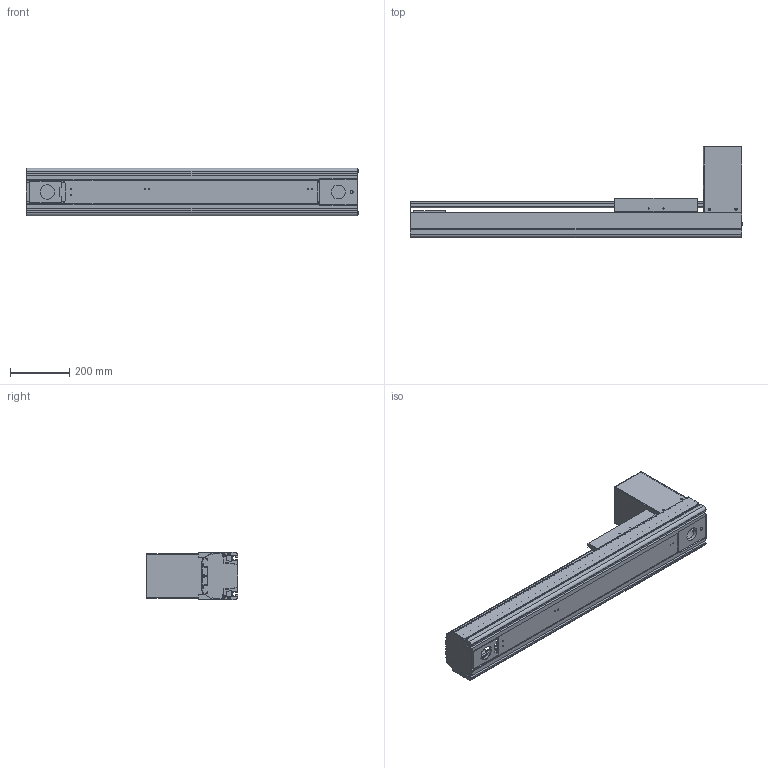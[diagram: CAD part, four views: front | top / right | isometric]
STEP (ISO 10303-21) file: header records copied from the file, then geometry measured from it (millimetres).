
FILE_DESCRIPTION((''),'2;1');
FILE_NAME('BE50G-BT-L19N-55_IGS_PRT','2017-06-18T',(' '),(''),'PRO/ENGINEER BY PARAMETRIC TECHNOLOGY CORPORATION, 2015030','PRO/ENGINEER BY PARAMETRIC TECHNOLOGY CORPORATION, 2015030','');
FILE_SCHEMA(('CONFIG_CONTROL_DESIGN'));
Length unit declared in the file: millimetre
Products named in the file (1): BE50G-BT-L19N-55_IGS_PRT
Bounding box: 1120 x 309 x 160 mm (x, y, z)
Volume: 6206620.3 mm3; surface area: 2294274.6 mm2
Topology: 2 solids, 131 shells, 1822 faces, 5008 edges, 3295 vertices
Faces by surface type: cylinder 883, plane 776, cone 120, sphere 23, torus 20
Entity records: 59916 total; most frequent: CARTESIAN_POINT 12839, DIRECTION 9977, ORIENTED_EDGE 9404, EDGE_CURVE 4932, AXIS2_PLACEMENT_3D 3701, VERTEX_POINT 3294, VECTOR 2575, LINE 2575
